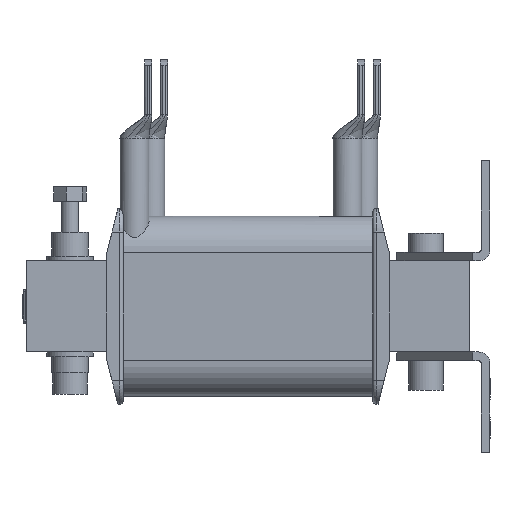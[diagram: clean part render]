
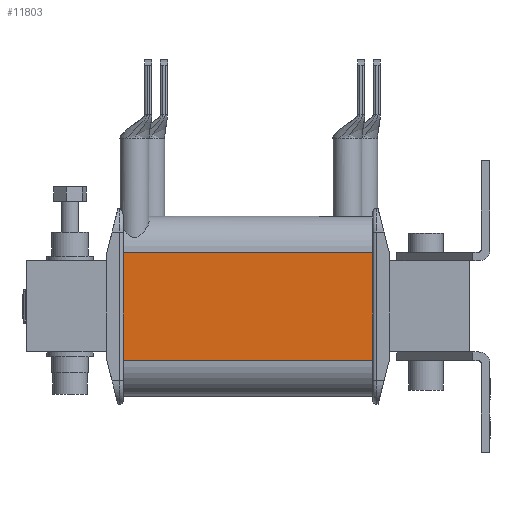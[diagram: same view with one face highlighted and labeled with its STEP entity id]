
A CAD part, left-side view. The second image highlights one B-rep face of the part: STEP entity #11803.
In plain terms, the highlighted planar face has unit normal (-1, 0, 0).
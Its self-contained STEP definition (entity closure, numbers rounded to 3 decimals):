
#191 = CARTESIAN_POINT ( 'NONE',  ( -88., 126.05, -18.5 ) ) ;
#1296 = VECTOR ( 'NONE', #11181, 1000. ) ;
#1635 = ORIENTED_EDGE ( 'NONE', *, *, #12301, .T. ) ;
#2734 = AXIS2_PLACEMENT_3D ( 'NONE', #191, #2807, #9517 ) ;
#2807 = DIRECTION ( 'NONE',  ( 1., 0., 0. ) ) ;
#2899 = ORIENTED_EDGE ( 'NONE', *, *, #12712, .T. ) ;
#3182 = VECTOR ( 'NONE', #5577, 1000. ) ;
#3285 = LINE ( 'NONE', #5439, #1296 ) ;
#3713 = PLANE ( 'NONE',  #2734 ) ;
#3893 = CARTESIAN_POINT ( 'NONE',  ( -88., 126.05, -18.5 ) ) ;
#4276 = LINE ( 'NONE', #5312, #12016 ) ;
#5035 = CARTESIAN_POINT ( 'NONE',  ( -88., 40.35, 18.5 ) ) ;
#5244 = EDGE_LOOP ( 'NONE', ( #2899, #9839, #14442, #1635 ) ) ;
#5312 = CARTESIAN_POINT ( 'NONE',  ( -88., 40.35, -18.5 ) ) ;
#5439 = CARTESIAN_POINT ( 'NONE',  ( -88., 126.05, -18.5 ) ) ;
#5577 = DIRECTION ( 'NONE',  ( 0., 0., 1. ) ) ;
#5882 = DIRECTION ( 'NONE',  ( 0., -1., 0. ) ) ;
#6653 = DIRECTION ( 'NONE',  ( 0., 0., 1. ) ) ;
#6835 = VERTEX_POINT ( 'NONE', #5035 ) ;
#6916 = LINE ( 'NONE', #12427, #3182 ) ;
#6988 = CARTESIAN_POINT ( 'NONE',  ( -88., 126.05, 18.5 ) ) ;
#7336 = VERTEX_POINT ( 'NONE', #12426 ) ;
#7994 = CARTESIAN_POINT ( 'NONE',  ( -88., 126.05, 18.5 ) ) ;
#8113 = LINE ( 'NONE', #6988, #13673 ) ;
#8323 = FACE_OUTER_BOUND ( 'NONE', #5244, .T. ) ;
#9143 = VERTEX_POINT ( 'NONE', #3893 ) ;
#9517 = DIRECTION ( 'NONE',  ( 0., 0., -1. ) ) ;
#9839 = ORIENTED_EDGE ( 'NONE', *, *, #13017, .F. ) ;
#10513 = EDGE_CURVE ( 'NONE', #9143, #10837, #6916, .T. ) ;
#10837 = VERTEX_POINT ( 'NONE', #7994 ) ;
#11181 = DIRECTION ( 'NONE',  ( 0., -1., 0. ) ) ;
#11803 = ADVANCED_FACE ( 'NONE', ( #8323 ), #3713, .F. ) ;
#12016 = VECTOR ( 'NONE', #6653, 1000. ) ;
#12301 = EDGE_CURVE ( 'NONE', #9143, #7336, #3285, .T. ) ;
#12426 = CARTESIAN_POINT ( 'NONE',  ( -88., 40.35, -18.5 ) ) ;
#12427 = CARTESIAN_POINT ( 'NONE',  ( -88., 126.05, -18.5 ) ) ;
#12712 = EDGE_CURVE ( 'NONE', #7336, #6835, #4276, .T. ) ;
#13017 = EDGE_CURVE ( 'NONE', #10837, #6835, #8113, .T. ) ;
#13673 = VECTOR ( 'NONE', #5882, 1000. ) ;
#14442 = ORIENTED_EDGE ( 'NONE', *, *, #10513, .F. ) ;
